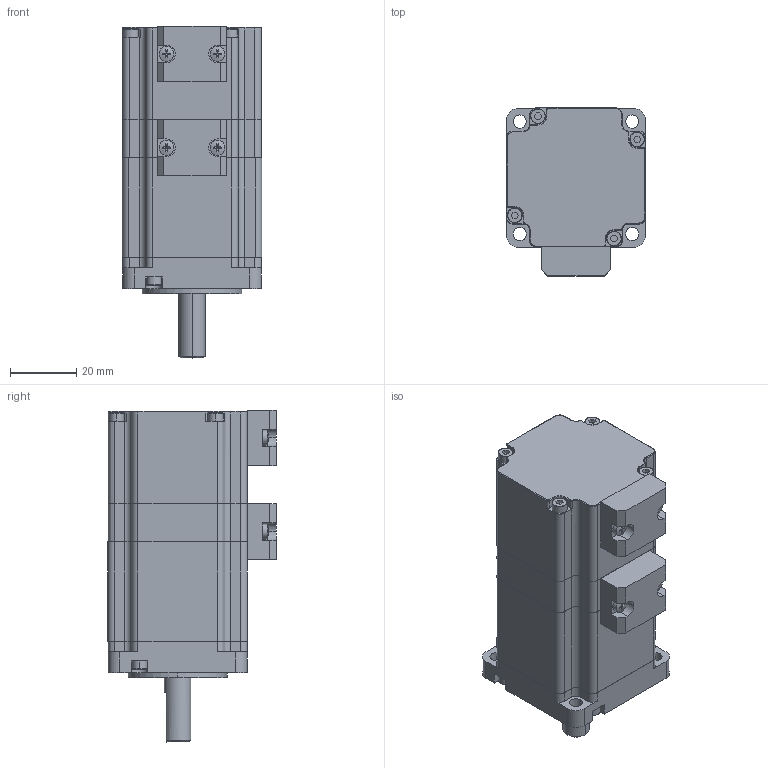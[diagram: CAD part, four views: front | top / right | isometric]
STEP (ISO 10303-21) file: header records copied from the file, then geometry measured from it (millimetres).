
FILE_DESCRIPTION (( 'STEP AP203' ), '1' );
FILE_NAME ('YK242EC51E1.STEP', '2021-07-02T01:08:03', ( 'Admin' ), ( '' ), 'SwSTEP 2.0', 'SolidWorks 2016', '' );
FILE_SCHEMA (( 'CONFIG_CONTROL_DESIGN' ));
Length unit declared in the file: millimetre
Products named in the file (10): YK242EC揤盄輸蹟佪; YK242EC粣郋; YK242ECヶ裔蹟佪; YK242EC揤盄輸; YK242EC綴欶蹟佪; YK242EC綴裔; YK242EC51E1; YK242ECヶ裔; YK242EC綴欶; YK242EC隅赽-01
Assembly tree (19 placements, depth 2):
  YK242EC51E1
    YK242ECヶ裔
    YK242EC隅赽-01
    YK242EC綴裔
    YK242EC綴欶
    YK242ECヶ裔蹟佪  x4
    YK242EC粣郋
    YK242EC綴欶蹟佪  x4
    YK242EC揤盄輸  x2
    YK242EC揤盄輸蹟佪  x4
Bounding box: 42.2 x 50.9 x 100.4 mm (x, y, z)
Volume: 71198.4 mm3; surface area: 46454.9 mm2
Topology: 19 solids, 19 shells, 693 faces, 1732 edges, 1108 vertices
Faces by surface type: plane 311, cylinder 276, bspline 50, cone 36, torus 20
Entity records: 17113 total; most frequent: CARTESIAN_POINT 3789, DIRECTION 2637, ORIENTED_EDGE 2452, EDGE_CURVE 1226, AXIS2_PLACEMENT_3D 997, VERTEX_POINT 795, LINE 643, VECTOR 643
